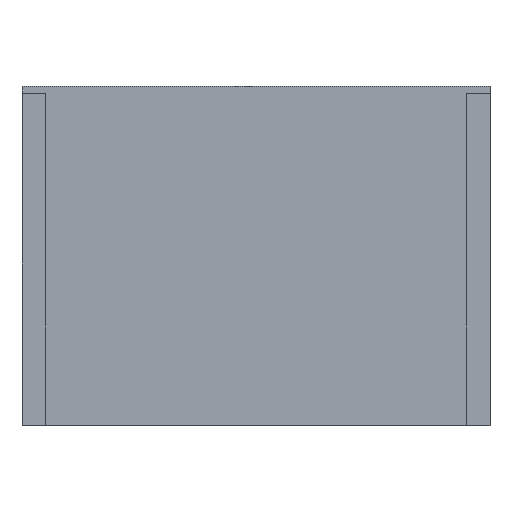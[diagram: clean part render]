
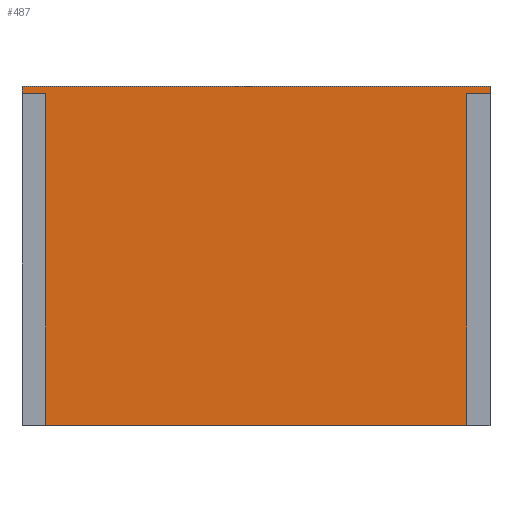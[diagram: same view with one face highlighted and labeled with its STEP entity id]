
A CAD part, top view. The second image highlights one B-rep face of the part: STEP entity #487.
In plain terms, the highlighted planar face has unit normal (0, 0, 1).
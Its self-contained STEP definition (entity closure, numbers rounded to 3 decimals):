
#2 = VERTEX_POINT ( 'NONE', #118 ) ;
#19 = AXIS2_PLACEMENT_3D ( 'NONE', #624, #1001, #159 ) ;
#59 = VECTOR ( 'NONE', #186, 1000. ) ;
#68 = LINE ( 'NONE', #441, #836 ) ;
#71 = EDGE_LOOP ( 'NONE', ( #324, #1176, #521, #936, #812, #409, #1042, #88 ) ) ;
#88 = ORIENTED_EDGE ( 'NONE', *, *, #1139, .T. ) ;
#107 = CARTESIAN_POINT ( 'NONE',  ( -91.5, 70.5, 78. ) ) ;
#118 = CARTESIAN_POINT ( 'NONE',  ( -101.5, 73.5, 78. ) ) ;
#141 = VERTEX_POINT ( 'NONE', #301 ) ;
#159 = DIRECTION ( 'NONE',  ( -1., 0., 0. ) ) ;
#169 = VERTEX_POINT ( 'NONE', #597 ) ;
#177 = DIRECTION ( 'NONE',  ( 0., 1., 0. ) ) ;
#181 = VECTOR ( 'NONE', #714, 1000. ) ;
#186 = DIRECTION ( 'NONE',  ( -1., 0., 0. ) ) ;
#228 = CARTESIAN_POINT ( 'NONE',  ( -101.5, -73.5, 78. ) ) ;
#251 = PLANE ( 'NONE',  #19 ) ;
#264 = CARTESIAN_POINT ( 'NONE',  ( 101.5, 70.5, 78. ) ) ;
#273 = VECTOR ( 'NONE', #636, 1000. ) ;
#274 = CARTESIAN_POINT ( 'NONE',  ( -91.5, -73.5, 78. ) ) ;
#295 = LINE ( 'NONE', #670, #794 ) ;
#301 = CARTESIAN_POINT ( 'NONE',  ( 91.5, -73.5, 78. ) ) ;
#324 = ORIENTED_EDGE ( 'NONE', *, *, #347, .T. ) ;
#340 = CARTESIAN_POINT ( 'NONE',  ( -101.5, 70.5, 78. ) ) ;
#347 = EDGE_CURVE ( 'NONE', #2, #169, #68, .T. ) ;
#366 = CARTESIAN_POINT ( 'NONE',  ( 91.5, 70.5, 78. ) ) ;
#409 = ORIENTED_EDGE ( 'NONE', *, *, #1100, .F. ) ;
#435 = VERTEX_POINT ( 'NONE', #698 ) ;
#441 = CARTESIAN_POINT ( 'NONE',  ( -101.5, -73.5, 78. ) ) ;
#475 = EDGE_CURVE ( 'NONE', #535, #169, #1187, .T. ) ;
#481 = DIRECTION ( 'NONE',  ( 0., 1., 0. ) ) ;
#487 = ADVANCED_FACE ( 'NONE', ( #1091 ), #251, .F. ) ;
#508 = VECTOR ( 'NONE', #481, 1000. ) ;
#521 = ORIENTED_EDGE ( 'NONE', *, *, #646, .F. ) ;
#535 = VERTEX_POINT ( 'NONE', #726 ) ;
#597 = CARTESIAN_POINT ( 'NONE',  ( -101.5, 70.5, 78. ) ) ;
#606 = DIRECTION ( 'NONE',  ( 1., 0., 0. ) ) ;
#624 = CARTESIAN_POINT ( 'NONE',  ( 0., 0., 78. ) ) ;
#636 = DIRECTION ( 'NONE',  ( -1., 0., 0. ) ) ;
#637 = LINE ( 'NONE', #1021, #820 ) ;
#646 = EDGE_CURVE ( 'NONE', #1137, #535, #956, .T. ) ;
#649 = LINE ( 'NONE', #1034, #59 ) ;
#670 = CARTESIAN_POINT ( 'NONE',  ( 91.5, 70.5, 78. ) ) ;
#698 = CARTESIAN_POINT ( 'NONE',  ( 101.5, 73.5, 78. ) ) ;
#714 = DIRECTION ( 'NONE',  ( -1., 0., 0. ) ) ;
#726 = CARTESIAN_POINT ( 'NONE',  ( -91.5, 70.5, 78. ) ) ;
#738 = EDGE_CURVE ( 'NONE', #1137, #141, #1070, .T. ) ;
#794 = VECTOR ( 'NONE', #1050, 1000. ) ;
#812 = ORIENTED_EDGE ( 'NONE', *, *, #1026, .F. ) ;
#820 = VECTOR ( 'NONE', #177, 1000. ) ;
#828 = DIRECTION ( 'NONE',  ( 0., -1., 0. ) ) ;
#836 = VECTOR ( 'NONE', #828, 1000. ) ;
#882 = EDGE_CURVE ( 'NONE', #1097, #435, #637, .T. ) ;
#936 = ORIENTED_EDGE ( 'NONE', *, *, #738, .T. ) ;
#956 = LINE ( 'NONE', #107, #508 ) ;
#1001 = DIRECTION ( 'NONE',  ( 0., 0., -1. ) ) ;
#1021 = CARTESIAN_POINT ( 'NONE',  ( 101.5, -73.5, 78. ) ) ;
#1026 = EDGE_CURVE ( 'NONE', #1125, #141, #295, .T. ) ;
#1034 = CARTESIAN_POINT ( 'NONE',  ( -101.5, 73.5, 78. ) ) ;
#1042 = ORIENTED_EDGE ( 'NONE', *, *, #882, .T. ) ;
#1050 = DIRECTION ( 'NONE',  ( 0., -1., 0. ) ) ;
#1070 = LINE ( 'NONE', #228, #1164 ) ;
#1091 = FACE_OUTER_BOUND ( 'NONE', #71, .T. ) ;
#1097 = VERTEX_POINT ( 'NONE', #1154 ) ;
#1100 = EDGE_CURVE ( 'NONE', #1097, #1125, #1107, .T. ) ;
#1107 = LINE ( 'NONE', #264, #273 ) ;
#1125 = VERTEX_POINT ( 'NONE', #366 ) ;
#1137 = VERTEX_POINT ( 'NONE', #274 ) ;
#1139 = EDGE_CURVE ( 'NONE', #435, #2, #649, .T. ) ;
#1154 = CARTESIAN_POINT ( 'NONE',  ( 101.5, 70.5, 78. ) ) ;
#1164 = VECTOR ( 'NONE', #606, 1000. ) ;
#1176 = ORIENTED_EDGE ( 'NONE', *, *, #475, .F. ) ;
#1187 = LINE ( 'NONE', #340, #181 ) ;
